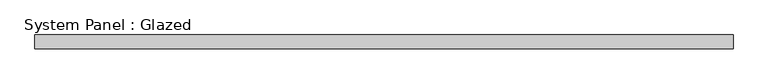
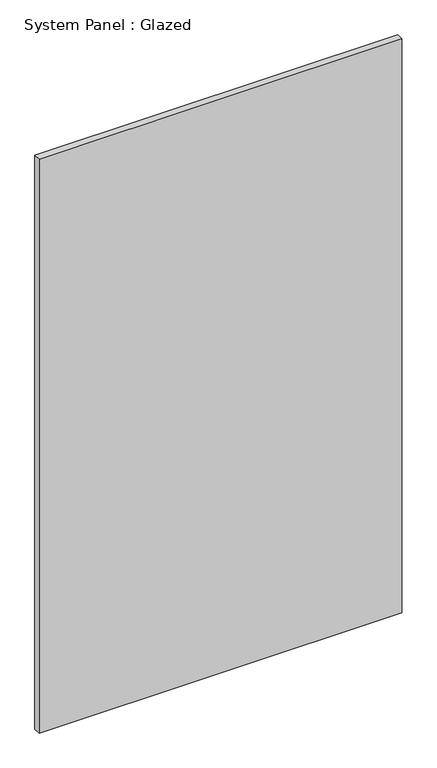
"""IFC4 building model written with IfcOpenShell, lengths in millimetres: plate geometry, System Panel : Glazed."""

from ifc_helpers import new_model, si_unit, origin, origin_with_axes, place, context, project, spatial, polyline, outline, extrude, source, transform, mapped, element, save


def system_panel_glazed_05e1786f(model_context):
    return source(origin(), model_context, "Body", "SweptSolid", [
        extrude(outline(polyline([(647.8295455, 19.05), (-647.8295455, 19.05), (-647.8295455, 44.45), (647.8295455, 44.45), (647.8295455, 19.05)])), origin_with_axes(), (0.0, 0.0, 1.0), 2166.35),
    ])


if __name__ == "__main__":
    model = new_model("IFC4")
    model_context = context("Model", 3, world=origin())
    ifc_project = project(units=[si_unit("LENGTHUNIT", "METRE", prefix="MILLI")], contexts=[model_context])
    site = spatial("IfcSite", under=ifc_project)
    building = spatial("IfcBuilding", under=site)
    placement = place(None, origin())
    system_panel_glazed_shape = system_panel_glazed_05e1786f(model_context)
    element("IfcPlate", 1, ObjectType="System Panel : Glazed", at=placement, inside=building, context=model_context, shape_type="MappedRepresentation", body=[
        mapped(system_panel_glazed_shape, transform((0.0, 0.0, 0.0), x_axis=(1.0, 0.0, 0.0), y_axis=(0.0, 1.0, 0.0), z_axis=(0.0, 0.0, 1.0))),
    ])
    save(model, "model.ifc")
